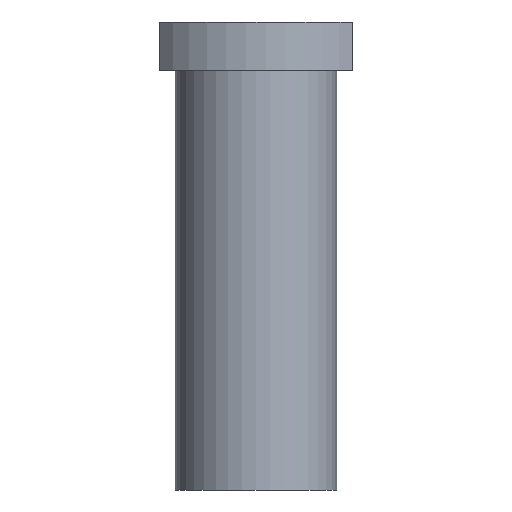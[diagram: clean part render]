
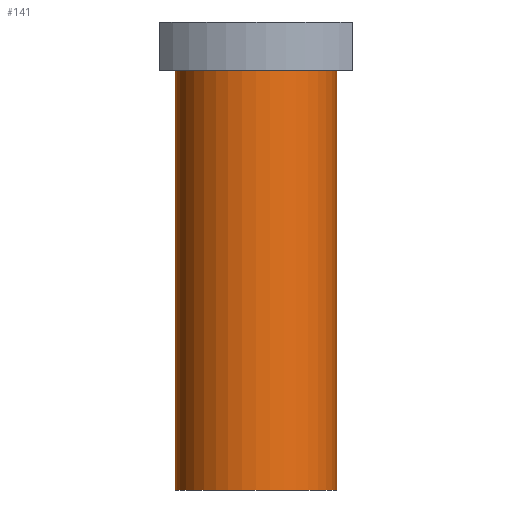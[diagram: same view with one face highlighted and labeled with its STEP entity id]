
A CAD part, front view. The second image highlights one B-rep face of the part: STEP entity #141.
In plain terms, the highlighted cylindrical face has radius 20 mm (diameter 40 mm), a full revolution.
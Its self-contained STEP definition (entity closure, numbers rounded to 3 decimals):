
#21 = EDGE_CURVE('',#22,#24,#26,.T.);
#22 = VERTEX_POINT('',#23);
#23 = CARTESIAN_POINT('',(0.,20.,-116.));
#24 = VERTEX_POINT('',#25);
#25 = CARTESIAN_POINT('',(20.,0.,-116.));
#26 = SURFACE_CURVE('',#27,(#32,#44),.PCURVE_S1.);
#27 = CIRCLE('',#28,20.);
#28 = AXIS2_PLACEMENT_3D('',#29,#30,#31);
#29 = CARTESIAN_POINT('',(0.,0.,-116.));
#30 = DIRECTION('',(0.,0.,-1.));
#31 = DIRECTION('',(0.,1.,0.));
#32 = PCURVE('',#33,#38);
#33 = PLANE('',#34);
#34 = AXIS2_PLACEMENT_3D('',#35,#36,#37);
#35 = CARTESIAN_POINT('',(0.,0.,-116.));
#36 = DIRECTION('',(0.,0.,-1.));
#37 = DIRECTION('',(-1.,0.,0.));
#38 = DEFINITIONAL_REPRESENTATION('',(#39),#43);
#39 = CIRCLE('',#40,20.);
#40 = AXIS2_PLACEMENT_2D('',#41,#42);
#41 = CARTESIAN_POINT('',(0.,0.));
#42 = DIRECTION('',(0.,1.));
#43 = ( GEOMETRIC_REPRESENTATION_CONTEXT(2) 
PARAMETRIC_REPRESENTATION_CONTEXT() REPRESENTATION_CONTEXT('2D SPACE',''
  ) );
#44 = PCURVE('',#45,#50);
#45 = CYLINDRICAL_SURFACE('',#46,20.);
#46 = AXIS2_PLACEMENT_3D('',#47,#48,#49);
#47 = CARTESIAN_POINT('',(0.,0.,-45.));
#48 = DIRECTION('',(0.,0.,-1.));
#49 = DIRECTION('',(-1.,0.,0.));
#50 = DEFINITIONAL_REPRESENTATION('',(#51),#55);
#51 = LINE('',#52,#53);
#52 = CARTESIAN_POINT('',(1.571,71.));
#53 = VECTOR('',#54,1.);
#54 = DIRECTION('',(1.,0.));
#55 = ( GEOMETRIC_REPRESENTATION_CONTEXT(2) 
PARAMETRIC_REPRESENTATION_CONTEXT() REPRESENTATION_CONTEXT('2D SPACE',''
  ) );
#57 = EDGE_CURVE('',#24,#22,#58,.T.);
#58 = SURFACE_CURVE('',#59,(#64,#71),.PCURVE_S1.);
#59 = CIRCLE('',#60,20.);
#60 = AXIS2_PLACEMENT_3D('',#61,#62,#63);
#61 = CARTESIAN_POINT('',(0.,0.,-116.));
#62 = DIRECTION('',(0.,0.,-1.));
#63 = DIRECTION('',(0.,1.,0.));
#64 = PCURVE('',#33,#65);
#65 = DEFINITIONAL_REPRESENTATION('',(#66),#70);
#66 = CIRCLE('',#67,20.);
#67 = AXIS2_PLACEMENT_2D('',#68,#69);
#68 = CARTESIAN_POINT('',(0.,0.));
#69 = DIRECTION('',(0.,1.));
#70 = ( GEOMETRIC_REPRESENTATION_CONTEXT(2) 
PARAMETRIC_REPRESENTATION_CONTEXT() REPRESENTATION_CONTEXT('2D SPACE',''
  ) );
#71 = PCURVE('',#45,#72);
#72 = DEFINITIONAL_REPRESENTATION('',(#73),#77);
#73 = LINE('',#74,#75);
#74 = CARTESIAN_POINT('',(-4.712,71.));
#75 = VECTOR('',#76,1.);
#76 = DIRECTION('',(1.,0.));
#77 = ( GEOMETRIC_REPRESENTATION_CONTEXT(2) 
PARAMETRIC_REPRESENTATION_CONTEXT() REPRESENTATION_CONTEXT('2D SPACE',''
  ) );
#141 = ADVANCED_FACE('',(#142),#45,.T.);
#142 = FACE_BOUND('',#143,.T.);
#143 = EDGE_LOOP('',(#144,#145,#146,#169,#196));
#144 = ORIENTED_EDGE('',*,*,#21,.F.);
#145 = ORIENTED_EDGE('',*,*,#57,.F.);
#146 = ORIENTED_EDGE('',*,*,#147,.T.);
#147 = EDGE_CURVE('',#24,#148,#150,.T.);
#148 = VERTEX_POINT('',#149);
#149 = CARTESIAN_POINT('',(20.,0.,-12.));
#150 = SEAM_CURVE('',#151,(#155,#162),.PCURVE_S1.);
#151 = LINE('',#152,#153);
#152 = CARTESIAN_POINT('',(20.,0.,-45.));
#153 = VECTOR('',#154,1.);
#154 = DIRECTION('',(0.,0.,1.));
#155 = PCURVE('',#45,#156);
#156 = DEFINITIONAL_REPRESENTATION('',(#157),#161);
#157 = LINE('',#158,#159);
#158 = CARTESIAN_POINT('',(-3.142,0.));
#159 = VECTOR('',#160,1.);
#160 = DIRECTION('',(0.,-1.));
#161 = ( GEOMETRIC_REPRESENTATION_CONTEXT(2) 
PARAMETRIC_REPRESENTATION_CONTEXT() REPRESENTATION_CONTEXT('2D SPACE',''
  ) );
#162 = PCURVE('',#45,#163);
#163 = DEFINITIONAL_REPRESENTATION('',(#164),#168);
#164 = LINE('',#165,#166);
#165 = CARTESIAN_POINT('',(3.142,0.));
#166 = VECTOR('',#167,1.);
#167 = DIRECTION('',(0.,-1.));
#168 = ( GEOMETRIC_REPRESENTATION_CONTEXT(2) 
PARAMETRIC_REPRESENTATION_CONTEXT() REPRESENTATION_CONTEXT('2D SPACE',''
  ) );
#169 = ORIENTED_EDGE('',*,*,#170,.T.);
#170 = EDGE_CURVE('',#148,#148,#171,.T.);
#171 = SURFACE_CURVE('',#172,(#177,#184),.PCURVE_S1.);
#172 = CIRCLE('',#173,20.);
#173 = AXIS2_PLACEMENT_3D('',#174,#175,#176);
#174 = CARTESIAN_POINT('',(0.,0.,-12.));
#175 = DIRECTION('',(0.,0.,-1.));
#176 = DIRECTION('',(-1.,0.,0.));
#177 = PCURVE('',#45,#178);
#178 = DEFINITIONAL_REPRESENTATION('',(#179),#183);
#179 = LINE('',#180,#181);
#180 = CARTESIAN_POINT('',(-6.283,-33.));
#181 = VECTOR('',#182,1.);
#182 = DIRECTION('',(1.,0.));
#183 = ( GEOMETRIC_REPRESENTATION_CONTEXT(2) 
PARAMETRIC_REPRESENTATION_CONTEXT() REPRESENTATION_CONTEXT('2D SPACE',''
  ) );
#184 = PCURVE('',#185,#190);
#185 = PLANE('',#186);
#186 = AXIS2_PLACEMENT_3D('',#187,#188,#189);
#187 = CARTESIAN_POINT('',(0.,0.,-12.));
#188 = DIRECTION('',(0.,0.,-1.));
#189 = DIRECTION('',(-1.,0.,0.));
#190 = DEFINITIONAL_REPRESENTATION('',(#191),#195);
#191 = CIRCLE('',#192,20.);
#192 = AXIS2_PLACEMENT_2D('',#193,#194);
#193 = CARTESIAN_POINT('',(0.,0.));
#194 = DIRECTION('',(1.,0.));
#195 = ( GEOMETRIC_REPRESENTATION_CONTEXT(2) 
PARAMETRIC_REPRESENTATION_CONTEXT() REPRESENTATION_CONTEXT('2D SPACE',''
  ) );
#196 = ORIENTED_EDGE('',*,*,#147,.F.);
